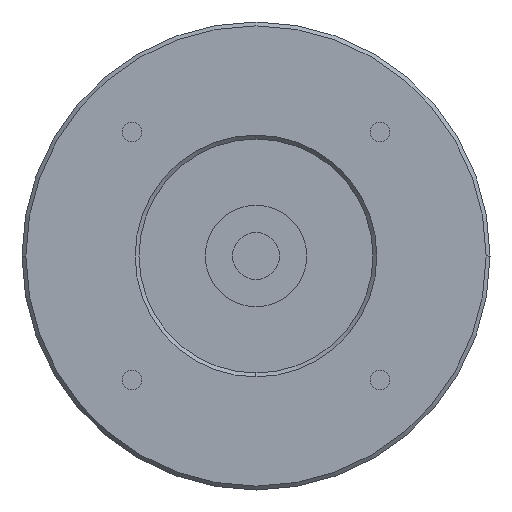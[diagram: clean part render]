
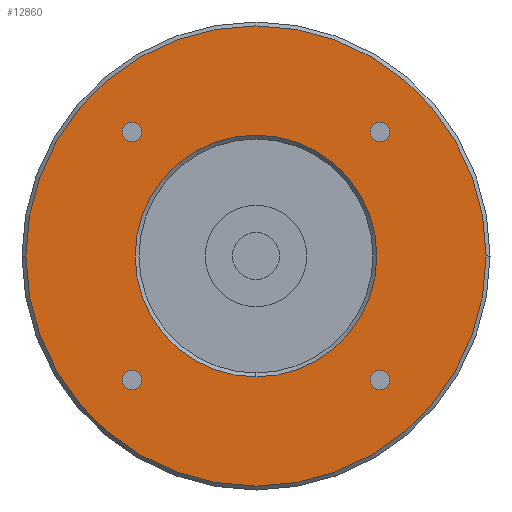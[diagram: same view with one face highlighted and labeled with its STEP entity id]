
A CAD part, left-side view. The second image highlights one B-rep face of the part: STEP entity #12860.
In plain terms, the highlighted planar face has unit normal (-1, 0, 0) as drawn and (0, 0, -1) by its records, which use the part's own axes.
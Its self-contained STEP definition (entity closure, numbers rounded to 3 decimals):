
#11570=CARTESIAN_POINT('',(0.,15.5,-35.5));
#11580=VERTEX_POINT('',#11570);
#11610=CARTESIAN_POINT('',(0.,0.,
-35.5));
#11620=DIRECTION('',(0.,0.,-1.));
#11630=DIRECTION('',(-1.,0.,0.));
#11640=AXIS2_PLACEMENT_3D('',#11610,#11620,#11630);
#11650=CIRCLE('',#11640,15.5);
#11660=CARTESIAN_POINT('',(-15.5,0.,-35.5));
#11670=VERTEX_POINT('',#11660);
#11680=EDGE_CURVE('',#11670,#11580,#11650,.T.);
#11700=CARTESIAN_POINT('',(0.,-15.5,-35.5));
#11710=VERTEX_POINT('',#11700);
#11720=EDGE_CURVE('',#11710,#11670,#11650,.T.);
#11840=CARTESIAN_POINT('',(0.,0.,
-35.5));
#11850=DIRECTION('',(0.,0.,-1.));
#11860=DIRECTION('',(-1.,0.,0.));
#11870=AXIS2_PLACEMENT_3D('',#11840,#11850,#11860);
#11880=PLANE('',#11870);
#11890=CARTESIAN_POINT('',(-15.91,15.91,-35.5));
#11900=DIRECTION('',(0.,0.,-1.));
#11910=DIRECTION('',(0.,-1.,0.));
#11920=AXIS2_PLACEMENT_3D('',#11890,#11900,#11910);
#11930=CIRCLE('',#11920,1.25);
#11940=CARTESIAN_POINT('',(-15.91,14.66,-35.5));
#11950=VERTEX_POINT('',#11940);
#11960=CARTESIAN_POINT('',(-17.16,15.91,-35.5));
#11970=VERTEX_POINT('',#11960);
#11980=EDGE_CURVE('',#11950,#11970,#11930,.T.);
#11990=ORIENTED_EDGE('',*,*,#11980,.F.);
#12000=CARTESIAN_POINT('',(-14.66,15.91,-35.5));
#12010=VERTEX_POINT('',#12000);
#12020=EDGE_CURVE('',#11970,#12010,#11930,.T.);
#12030=ORIENTED_EDGE('',*,*,#12020,.F.);
#12040=EDGE_CURVE('',#12010,#11950,#11930,.T.);
#12050=ORIENTED_EDGE('',*,*,#12040,.F.);
#12060=EDGE_LOOP('',(#12050,#12030,#11990));
#12070=FACE_BOUND('',#12060,.T.);
#12080=CARTESIAN_POINT('',(15.91,15.91,-35.5));
#12090=DIRECTION('',(0.,0.,-1.));
#12100=DIRECTION('',(0.,-1.,0.));
#12110=AXIS2_PLACEMENT_3D('',#12080,#12090,#12100);
#12120=CIRCLE('',#12110,1.25);
#12130=CARTESIAN_POINT('',(15.91,14.66,-35.5));
#12140=VERTEX_POINT('',#12130);
#12150=CARTESIAN_POINT('',(14.66,15.91,-35.5));
#12160=VERTEX_POINT('',#12150);
#12170=EDGE_CURVE('',#12140,#12160,#12120,.T.);
#12180=ORIENTED_EDGE('',*,*,#12170,.F.);
#12190=CARTESIAN_POINT('',(17.16,15.91,-35.5));
#12200=VERTEX_POINT('',#12190);
#12210=EDGE_CURVE('',#12160,#12200,#12120,.T.);
#12220=ORIENTED_EDGE('',*,*,#12210,.F.);
#12230=EDGE_CURVE('',#12200,#12140,#12120,.T.);
#12240=ORIENTED_EDGE('',*,*,#12230,.F.);
#12250=EDGE_LOOP('',(#12240,#12220,#12180));
#12260=FACE_BOUND('',#12250,.T.);
#12270=CARTESIAN_POINT('',(15.91,-15.91,-35.5));
#12280=DIRECTION('',(0.,0.,-1.));
#12290=DIRECTION('',(0.,-1.,0.));
#12300=AXIS2_PLACEMENT_3D('',#12270,#12280,#12290);
#12310=CIRCLE('',#12300,1.25);
#12320=CARTESIAN_POINT('',(15.91,-17.16,-35.5));
#12330=VERTEX_POINT('',#12320);
#12340=CARTESIAN_POINT('',(14.66,-15.91,-35.5));
#12350=VERTEX_POINT('',#12340);
#12360=EDGE_CURVE('',#12330,#12350,#12310,.T.);
#12370=ORIENTED_EDGE('',*,*,#12360,.F.);
#12380=CARTESIAN_POINT('',(17.16,-15.91,-35.5));
#12390=VERTEX_POINT('',#12380);
#12400=EDGE_CURVE('',#12350,#12390,#12310,.T.);
#12410=ORIENTED_EDGE('',*,*,#12400,.F.);
#12420=EDGE_CURVE('',#12390,#12330,#12310,.T.);
#12430=ORIENTED_EDGE('',*,*,#12420,.F.);
#12440=EDGE_LOOP('',(#12430,#12410,#12370));
#12450=FACE_BOUND('',#12440,.T.);
#12460=CARTESIAN_POINT('',(-15.91,-15.91,-35.5));
#12470=DIRECTION('',(0.,0.,-1.));
#12480=DIRECTION('',(0.,-1.,0.));
#12490=AXIS2_PLACEMENT_3D('',#12460,#12470,#12480);
#12500=CIRCLE('',#12490,1.25);
#12510=CARTESIAN_POINT('',(-15.91,-17.16,-35.5));
#12520=VERTEX_POINT('',#12510);
#12530=CARTESIAN_POINT('',(-17.16,-15.91,-35.5));
#12540=VERTEX_POINT('',#12530);
#12550=EDGE_CURVE('',#12520,#12540,#12500,.T.);
#12560=ORIENTED_EDGE('',*,*,#12550,.F.);
#12570=CARTESIAN_POINT('',(-14.66,-15.91,-35.5));
#12580=VERTEX_POINT('',#12570);
#12590=EDGE_CURVE('',#12540,#12580,#12500,.T.);
#12600=ORIENTED_EDGE('',*,*,#12590,.F.);
#12610=EDGE_CURVE('',#12580,#12520,#12500,.T.);
#12620=ORIENTED_EDGE('',*,*,#12610,.F.);
#12630=EDGE_LOOP('',(#12620,#12600,#12560));
#12640=FACE_BOUND('',#12630,.T.);
#12650=CARTESIAN_POINT('',(0.,0.,
-35.5));
#12660=DIRECTION('',(0.,0.,-1.));
#12670=DIRECTION('',(-1.,0.,0.));
#12680=AXIS2_PLACEMENT_3D('',#12650,#12660,#12670);
#12690=CIRCLE('',#12680,29.5);
#12700=CARTESIAN_POINT('',(-29.5,0.,-35.5));
#12710=VERTEX_POINT('',#12700);
#12720=CARTESIAN_POINT('',(29.5,0.,-35.5));
#12730=VERTEX_POINT('',#12720);
#12740=EDGE_CURVE('',#12710,#12730,#12690,.T.);
#12750=ORIENTED_EDGE('',*,*,#12740,.T.);
#12760=EDGE_CURVE('',#12730,#12710,#12690,.T.);
#12770=ORIENTED_EDGE('',*,*,#12760,.T.);
#12780=EDGE_LOOP('',(#12770,#12750));
#12790=FACE_OUTER_BOUND('',#12780,.T.);
#12800=ORIENTED_EDGE('',*,*,#11680,.F.);
#12810=EDGE_CURVE('',#11580,#11710,#11650,.T.);
#12820=ORIENTED_EDGE('',*,*,#12810,.F.);
#12830=ORIENTED_EDGE('',*,*,#11720,.F.);
#12840=EDGE_LOOP('',(#12830,#12820,#12800));
#12850=FACE_BOUND('',#12840,.T.);
#12860=ADVANCED_FACE('',(#12070,#12260,#12450,#12640,#12790,#12850),
#11880,.T.);
